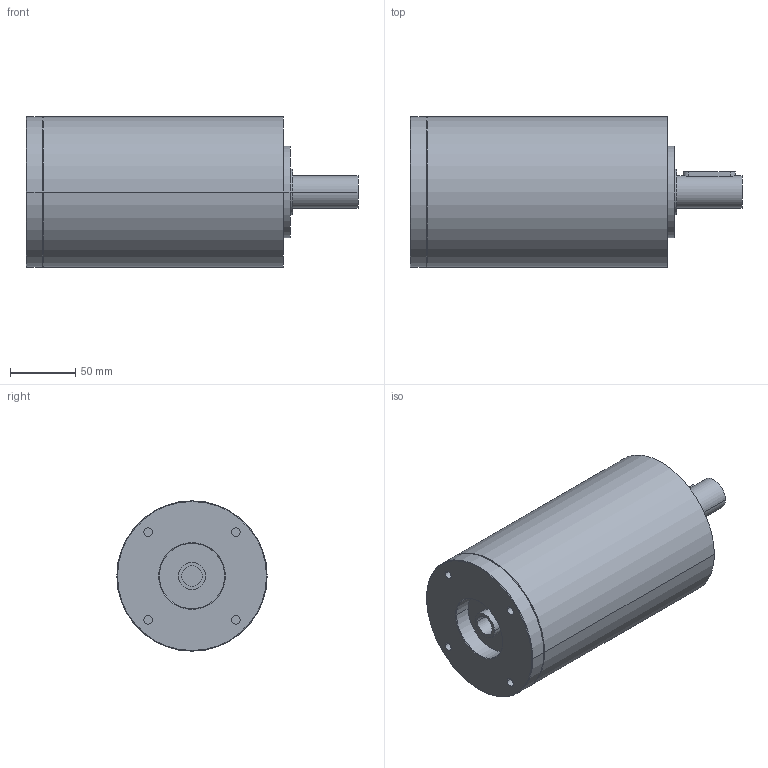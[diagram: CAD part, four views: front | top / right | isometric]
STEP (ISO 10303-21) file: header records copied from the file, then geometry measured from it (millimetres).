
FILE_DESCRIPTION(('CoCreate Modeling STEP Export'),'2;1');
FILE_NAME('GPR125_ig-48-64-80-100-140-196-245-343_25_B14_15.87_P19.stp','2014-08-26T14:21:15',(''),(''),'CoCreate Modeling STEP processor for AP214 (Solid Model)','CoCreate Modeling 16.00C 25-Feb-2009 (C) Parametric Technology GmbH','');
FILE_SCHEMA(('AUTOMOTIVE_DESIGN { 1 0 10303 214 1 1 1 1 }'));
Length unit declared in the file: millimetre
Products named in the file (2): GPR125_ig-48-64-80-100-140-196-245-343_25_B14_15.87_P19
Assembly tree (1 placements, depth 2):
  GPR125_ig-48-64-80-100-140-196-245-343_25_B14_15.87_P19
    GPR125_ig-48-64-80-100-140-196-245-343_25_B14_15.87_P19
Bounding box: 254 x 115 x 115 mm (x, y, z)
Volume: 2055464.3 mm3; surface area: 105599 mm2
Topology: 1 solids, 1 shells, 66 faces, 162 edges, 112 vertices
Faces by surface type: cylinder 36, plane 20, cone 10
Entity records: 1665 total; most frequent: ORIENTED_EDGE 320, CARTESIAN_POINT 314, DIRECTION 216, EDGE_CURVE 160, VERTEX_POINT 112, AXIS2_PLACEMENT_3D 82, EDGE_LOOP 82, FACE_OUTER_BOUND 66
